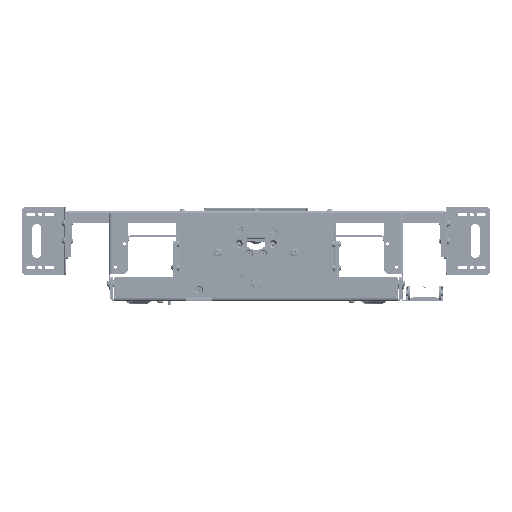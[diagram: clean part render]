
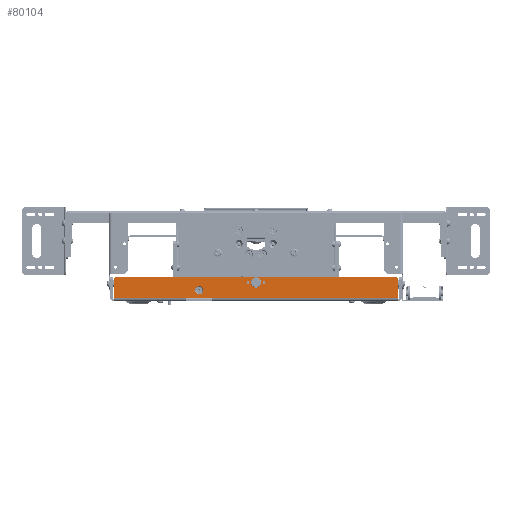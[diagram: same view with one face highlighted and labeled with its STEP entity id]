
A CAD part, front view. The second image highlights one B-rep face of the part: STEP entity #80104.
In plain terms, the highlighted planar face has unit normal (0, -1, 0).
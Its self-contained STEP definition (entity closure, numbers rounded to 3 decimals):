
#43 = PLANE ( 'NONE',  #90672 ) ;
#1053 = VERTEX_POINT ( 'NONE', #29593 ) ;
#1070 = LINE ( 'NONE', #36430, #68629 ) ;
#1366 = VECTOR ( 'NONE', #51445, 1000. ) ;
#3257 = DIRECTION ( 'NONE',  ( 0., 0., 1. ) ) ;
#5292 = DIRECTION ( 'NONE',  ( 0., 1., 0. ) ) ;
#6012 = ORIENTED_EDGE ( 'NONE', *, *, #61418, .T. ) ;
#6057 = CARTESIAN_POINT ( 'NONE',  ( -119.1, -6.2, 6.2 ) ) ;
#7167 = VERTEX_POINT ( 'NONE', #33161 ) ;
#8681 = ORIENTED_EDGE ( 'NONE', *, *, #10042, .T. ) ;
#8771 = AXIS2_PLACEMENT_3D ( 'NONE', #40045, #90657, #3257 ) ;
#10042 = EDGE_CURVE ( 'NONE', #1053, #53753, #26956, .T. ) ;
#13019 = VERTEX_POINT ( 'NONE', #33172 ) ;
#14356 = CARTESIAN_POINT ( 'NONE',  ( -241.3, -6.2, 42. ) ) ;
#14436 = VECTOR ( 'NONE', #28851, 1000. ) ;
#14741 = ORIENTED_EDGE ( 'NONE', *, *, #16763, .T. ) ;
#14816 = DIRECTION ( 'NONE',  ( 0., 0., -1. ) ) ;
#16763 = EDGE_CURVE ( 'NONE', #89120, #89120, #57621, .T. ) ;
#21000 = EDGE_CURVE ( 'NONE', #80428, #7167, #1070, .T. ) ;
#21063 = CARTESIAN_POINT ( 'NONE',  ( 13.5, -6.2, 34.325 ) ) ;
#21837 = EDGE_LOOP ( 'NONE', ( #24035 ) ) ;
#21978 = CIRCLE ( 'NONE', #84501, 7. ) ;
#24035 = ORIENTED_EDGE ( 'NONE', *, *, #80118, .F. ) ;
#26956 = CIRCLE ( 'NONE', #45225, 5. ) ;
#27075 = VERTEX_POINT ( 'NONE', #51420 ) ;
#27659 = EDGE_CURVE ( 'NONE', #40104, #33247, #64240, .T. ) ;
#28018 = EDGE_LOOP ( 'NONE', ( #45854, #8681, #38569, #47534, #31916, #88921, #75661, #53775 ) ) ;
#28025 = EDGE_LOOP ( 'NONE', ( #6012 ) ) ;
#28851 = DIRECTION ( 'NONE',  ( 0., 0., -1. ) ) ;
#29429 = CARTESIAN_POINT ( 'NONE',  ( -13.5, -6.2, 34.325 ) ) ;
#29593 = CARTESIAN_POINT ( 'NONE',  ( 241.3, -6.2, 37. ) ) ;
#30154 = FACE_BOUND ( 'NONE', #21837, .T. ) ;
#31207 = CARTESIAN_POINT ( 'NONE',  ( 236.3, -6.2, 42. ) ) ;
#31274 = DIRECTION ( 'NONE',  ( 0., 0., 1. ) ) ;
#31916 = ORIENTED_EDGE ( 'NONE', *, *, #89446, .T. ) ;
#33059 = CARTESIAN_POINT ( 'NONE',  ( -241.3, -6.2, 37. ) ) ;
#33120 = CARTESIAN_POINT ( 'NONE',  ( -236.3, -6.2, 37. ) ) ;
#33161 = CARTESIAN_POINT ( 'NONE',  ( -74.1, -6.2, 6.2 ) ) ;
#33172 = CARTESIAN_POINT ( 'NONE',  ( 0., -6.2, 40.6 ) ) ;
#33247 = VERTEX_POINT ( 'NONE', #33059 ) ;
#34290 = CIRCLE ( 'NONE', #40357, 2.325 ) ;
#35267 = CARTESIAN_POINT ( 'NONE',  ( -241.3, -6.2, 6.2 ) ) ;
#36430 = CARTESIAN_POINT ( 'NONE',  ( -241.3, -6.2, 6.2 ) ) ;
#36901 = DIRECTION ( 'NONE',  ( -1., 0., 0. ) ) ;
#36965 = CARTESIAN_POINT ( 'NONE',  ( -241.3, -6.2, 42. ) ) ;
#38569 = ORIENTED_EDGE ( 'NONE', *, *, #88587, .T. ) ;
#39463 = ORIENTED_EDGE ( 'NONE', *, *, #86965, .T. ) ;
#40045 = CARTESIAN_POINT ( 'NONE',  ( -13.5, -6.2, 32. ) ) ;
#40104 = VERTEX_POINT ( 'NONE', #81274 ) ;
#40357 = AXIS2_PLACEMENT_3D ( 'NONE', #54188, #81338, #31274 ) ;
#41609 = CARTESIAN_POINT ( 'NONE',  ( 236.3, -6.2, 37. ) ) ;
#42068 = DIRECTION ( 'NONE',  ( 0., 0., 1. ) ) ;
#42618 = FACE_BOUND ( 'NONE', #79969, .T. ) ;
#44891 = EDGE_CURVE ( 'NONE', #27075, #74846, #90235, .T. ) ;
#44890 = EDGE_CURVE ( 'NONE', #80428, #1053, #75396, .T. ) ;
#45225 = AXIS2_PLACEMENT_3D ( 'NONE', #41609, #71164, #42068 ) ;
#45854 = ORIENTED_EDGE ( 'NONE', *, *, #44890, .T. ) ;
#46378 = VECTOR ( 'NONE', #69622, 1000. ) ;
#47379 = CARTESIAN_POINT ( 'NONE',  ( 0., -6.2, 32. ) ) ;
#47534 = ORIENTED_EDGE ( 'NONE', *, *, #27659, .T. ) ;
#47651 = CIRCLE ( 'NONE', #52149, 8.6 ) ;
#48395 = VECTOR ( 'NONE', #89292, 1000. ) ;
#51420 = CARTESIAN_POINT ( 'NONE',  ( -119.1, -6.2, 6.2 ) ) ;
#51445 = DIRECTION ( 'NONE',  ( -1., 0., 0. ) ) ;
#52149 = AXIS2_PLACEMENT_3D ( 'NONE', #47379, #5292, #76442 ) ;
#53753 = VERTEX_POINT ( 'NONE', #31207 ) ;
#53775 = ORIENTED_EDGE ( 'NONE', *, *, #21000, .F. ) ;
#54188 = CARTESIAN_POINT ( 'NONE',  ( 13.5, -6.2, 32. ) ) ;
#54351 = EDGE_CURVE ( 'NONE', #7167, #27075, #86749, .T. ) ;
#55338 = CARTESIAN_POINT ( 'NONE',  ( -241.3, -6.2, 42. ) ) ;
#57621 = CIRCLE ( 'NONE', #8771, 2.325 ) ;
#60174 = CARTESIAN_POINT ( 'NONE',  ( 241.3, -6.2, 42. ) ) ;
#61418 = EDGE_CURVE ( 'NONE', #13019, #13019, #47651, .T. ) ;
#62892 = CARTESIAN_POINT ( 'NONE',  ( -96.6, -6.2, 11.7 ) ) ;
#64240 = CIRCLE ( 'NONE', #84021, 5. ) ;
#64257 = VERTEX_POINT ( 'NONE', #62892 ) ;
#65000 = DIRECTION ( 'NONE',  ( 0., 0., 1. ) ) ;
#65115 = LINE ( 'NONE', #36965, #14436 ) ;
#65458 = FACE_OUTER_BOUND ( 'NONE', #28018, .T. ) ;
#65949 = DIRECTION ( 'NONE',  ( 0., 1., 0. ) ) ;
#68629 = VECTOR ( 'NONE', #36901, 1000. ) ;
#69622 = DIRECTION ( 'NONE',  ( -1., 0., 0. ) ) ;
#71164 = DIRECTION ( 'NONE',  ( 0., -1., 0. ) ) ;
#73551 = DIRECTION ( 'NONE',  ( 0., -1., 0. ) ) ;
#74846 = VERTEX_POINT ( 'NONE', #35267 ) ;
#75396 = LINE ( 'NONE', #60174, #48395 ) ;
#75589 = DIRECTION ( 'NONE',  ( 0., 0., 1. ) ) ;
#75661 = ORIENTED_EDGE ( 'NONE', *, *, #54351, .F. ) ;
#75868 = DIRECTION ( 'NONE',  ( -1., 0., 0. ) ) ;
#76442 = DIRECTION ( 'NONE',  ( 0., 0., 1. ) ) ;
#78307 = CARTESIAN_POINT ( 'NONE',  ( 241.3, -6.2, 6.2 ) ) ;
#78844 = VECTOR ( 'NONE', #75868, 1000. ) ;
#79969 = EDGE_LOOP ( 'NONE', ( #39463 ) ) ;
#80104 = ADVANCED_FACE ( 'NONE', ( #86510, #42618, #80701, #65458, #30154 ), #43, .F. ) ;
#80118 = EDGE_CURVE ( 'NONE', #64257, #64257, #21978, .T. ) ;
#80428 = VERTEX_POINT ( 'NONE', #78307 ) ;
#80701 = FACE_BOUND ( 'NONE', #28025, .T. ) ;
#81172 = EDGE_LOOP ( 'NONE', ( #14741 ) ) ;
#81274 = CARTESIAN_POINT ( 'NONE',  ( -236.3, -6.2, 42. ) ) ;
#81338 = DIRECTION ( 'NONE',  ( 0., 1., 0. ) ) ;
#82486 = LINE ( 'NONE', #55338, #46378 ) ;
#83039 = CARTESIAN_POINT ( 'NONE',  ( -241.3, -6.2, 6.2 ) ) ;
#84021 = AXIS2_PLACEMENT_3D ( 'NONE', #33120, #90906, #75589 ) ;
#84501 = AXIS2_PLACEMENT_3D ( 'NONE', #94136, #73551, #14816 ) ;
#86505 = VERTEX_POINT ( 'NONE', #21063 ) ;
#86510 = FACE_BOUND ( 'NONE', #81172, .T. ) ;
#86749 = LINE ( 'NONE', #6057, #1366 ) ;
#86965 = EDGE_CURVE ( 'NONE', #86505, #86505, #34290, .T. ) ;
#88587 = EDGE_CURVE ( 'NONE', #53753, #40104, #82486, .T. ) ;
#88921 = ORIENTED_EDGE ( 'NONE', *, *, #44891, .F. ) ;
#89120 = VERTEX_POINT ( 'NONE', #29429 ) ;
#89292 = DIRECTION ( 'NONE',  ( 0., 0., 1. ) ) ;
#89446 = EDGE_CURVE ( 'NONE', #33247, #74846, #65115, .T. ) ;
#90235 = LINE ( 'NONE', #83039, #78844 ) ;
#90657 = DIRECTION ( 'NONE',  ( 0., 1., 0. ) ) ;
#90672 = AXIS2_PLACEMENT_3D ( 'NONE', #14356, #65949, #65000 ) ;
#90906 = DIRECTION ( 'NONE',  ( 0., -1., 0. ) ) ;
#94136 = CARTESIAN_POINT ( 'NONE',  ( -96.6, -6.2, 18.7 ) ) ;
